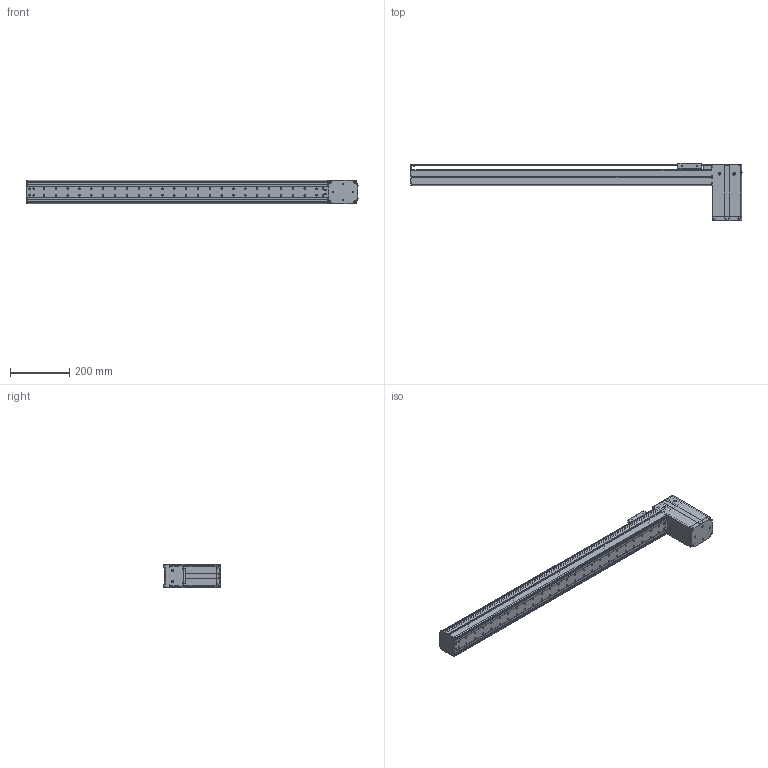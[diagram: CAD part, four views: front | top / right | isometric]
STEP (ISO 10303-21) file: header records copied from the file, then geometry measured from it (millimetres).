
FILE_DESCRIPTION((''),'2;1');
FILE_NAME('BE10_-BU-S_N-85_IGS_PRT','2017-06-18T',(' '),(''),'PRO/ENGINEER BY PARAMETRIC TECHNOLOGY CORPORATION, 2015030','PRO/ENGINEER BY PARAMETRIC TECHNOLOGY CORPORATION, 2015030','');
FILE_SCHEMA(('CONFIG_CONTROL_DESIGN'));
Products named in the file (1): BE10_-BU-S_N-85_IGS_PRT
Bounding box: 1120.8 x 192.72 x 78 mm (x, y, z)
Volume: 1360421.8 mm3; surface area: 975556.1 mm2
Topology: 3 solids, 134 shells, 1961 faces, 5339 edges, 3523 vertices
Faces by surface type: plane 920, cylinder 880, cone 119, sphere 21, torus 19, bspline 2
Entity records: 63671 total; most frequent: CARTESIAN_POINT 12945, DIRECTION 10809, ORIENTED_EDGE 10106, EDGE_CURVE 5285, AXIS2_PLACEMENT_3D 3869, VERTEX_POINT 3523, VECTOR 3071, LINE 3071
